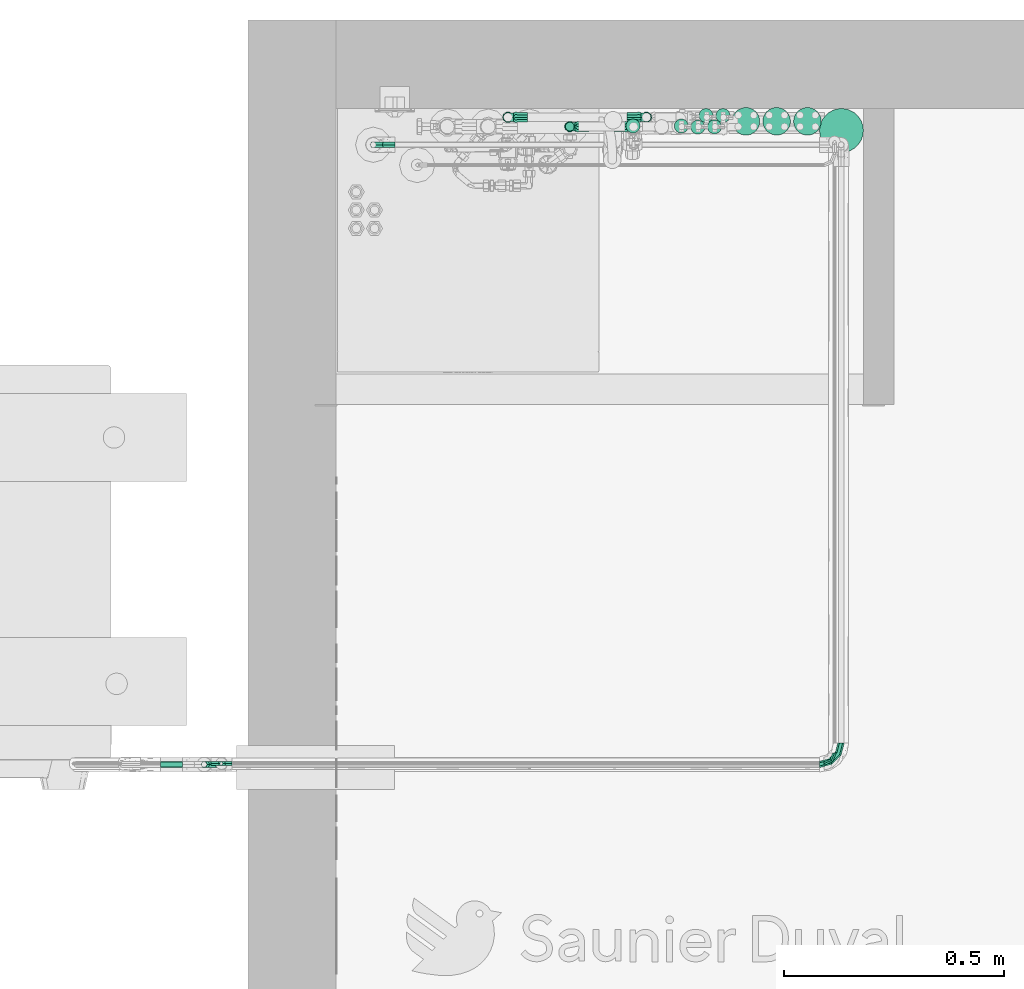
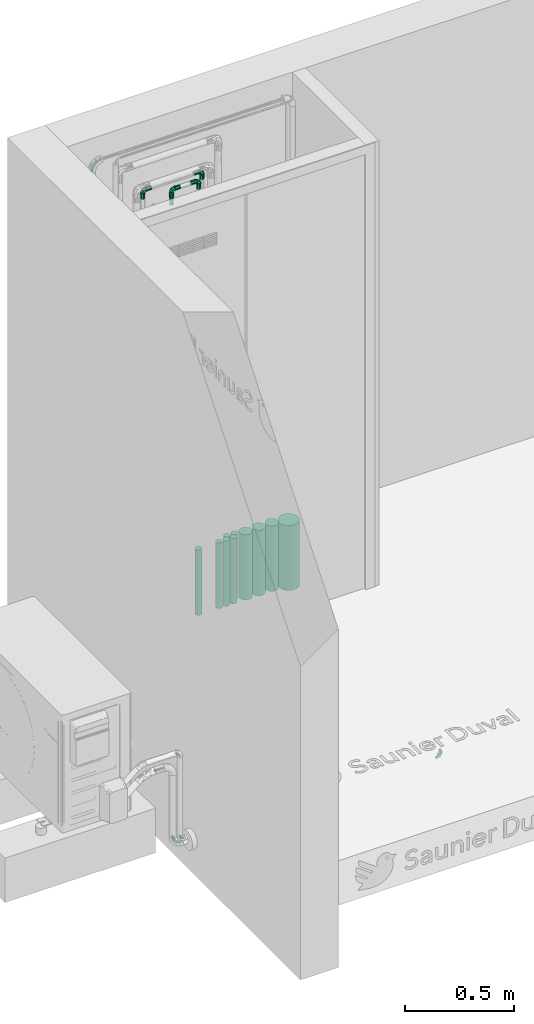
# One storey, part 22 of 32: 12 flow segments, 10 flow fittings.
"""IFC2X3 building model written with IfcOpenShell, lengths in metres."""

import ifcopenshell
import ifcopenshell.guid

model = None  # the IFC model being written
_history = None  # IfcOwnerHistory: only IFC2X3 demands one
_inside = {}  # id of a spatial element -> (the spatial element, [elements in it])
_under = {}  # id of a project, library or spatial element -> (it, [spatial elements below it])
_declared = {}  # id of a project -> (the project, [libraries it declares])
_typed = {}  # id of a type object -> (the type object, [elements of that type])
_made_of = {}  # id of a material, layer set ... -> (it, [elements and type objects made of it])


def new_model(schema):
    """Start an empty IFC model of exactly this schema.

    Asked for "IFC4X3", IfcOpenShell would pick the latest addendum, in which some entities
    have other attributes; the version numbers below select the first issue.
    IFC2X3 requires an IfcOwnerHistory on every rooted entity: one is made here for all.
    """
    global model, _history
    if schema == "IFC4X3":
        model = ifcopenshell.file(schema_version=(4, 3, 0, 0))
    else:
        model = ifcopenshell.file(schema=schema)
    _inside.clear()
    _under.clear()
    _declared.clear()
    _typed.clear()
    _made_of.clear()
    _history = None
    if model.schema == "IFC2X3":
        org = make("IfcOrganization", Name="unknown")
        user = make(
            "IfcPersonAndOrganization",
            ThePerson=make("IfcPerson", FamilyName="unknown"),
            TheOrganization=org,
        )
        app = make(
            "IfcApplication",
            ApplicationDeveloper=org,
            Version="unknown",
            ApplicationFullName="unknown",
            ApplicationIdentifier="unknown",
        )
        _history = make(
            "IfcOwnerHistory",
            OwningUser=user,
            OwningApplication=app,
            ChangeAction="ADDED",
            CreationDate=0,
        )
    return model


def make(cls, **values):
    """One entity of the class cls with the attributes given. An attribute that is None is left unset."""
    return model.create_entity(
        cls, **{name: value for name, value in values.items() if value is not None}
    )


def entity(cls, *values):
    """Any entity or typed value of the class cls, its attributes in the order of the schema. None: left unset."""
    e = model.create_entity(cls)
    for i, value in enumerate(values):
        if value is not None:
            e[i] = value
    return e


def rooted(cls, **values):
    """An entity with a GlobalId (a new one), such as an element, a storey or a relation."""
    return make(cls, GlobalId=ifcopenshell.guid.new(), OwnerHistory=_history, **values)


def si_unit(unit_type, name, prefix=None):
    """IfcSIUnit, for example si_unit("LENGTHUNIT", "METRE", prefix="MILLI")."""
    return make("IfcSIUnit", UnitType=unit_type, Prefix=prefix, Name=name)


def converted_unit(unit_type, name, factor, base, dimensions=None, offset=None):
    """IfcConversionBasedUnit, such as the inch: factor (a typed value) times the base unit."""
    return make(
        "IfcConversionBasedUnit"
        if offset is None
        else "IfcConversionBasedUnitWithOffset",
        ConversionOffset=offset,
        Dimensions=None
        if dimensions is None
        else entity("IfcDimensionalExponents", *dimensions),
        UnitType=unit_type,
        Name=name,
        ConversionFactor=make(
            "IfcMeasureWithUnit", ValueComponent=factor, UnitComponent=base
        ),
    )


def derived_unit(unit_type, elements):
    """IfcDerivedUnit: a product of units, each with its exponent."""
    return make(
        "IfcDerivedUnit",
        Elements=[
            make("IfcDerivedUnitElement", Unit=unit, Exponent=power)
            for unit, power in elements
        ],
        UnitType=unit_type,
    )


def assignment(units):
    """IfcUnitAssignment: the units of a project."""
    return None if units is None else make("IfcUnitAssignment", Units=units)


def point(xyz):
    """IfcCartesianPoint."""
    return None if xyz is None else make("IfcCartesianPoint", Coordinates=xyz)


def direction(xyz):
    """IfcDirection."""
    return None if xyz is None else make("IfcDirection", DirectionRatios=xyz)


def frame(location, z_axis=None, x_axis=None):
    """IfcAxis2Placement3D, a coordinate frame: its origin and axes. An axis left out is left unset."""
    return make(
        "IfcAxis2Placement3D",
        Location=point(location),
        Axis=direction(z_axis),
        RefDirection=direction(x_axis),
    )


def frame_2d(location, x_axis=None):
    """IfcAxis2Placement2D, a coordinate frame in the plane: its origin and x axis."""
    return make(
        "IfcAxis2Placement2D", Location=point(location), RefDirection=direction(x_axis)
    )


def origin():
    """The frame at (0, 0, 0) with its axes left unset."""
    return frame((0.0, 0.0, 0.0))


def origin_2d_with_axis():
    """The frame at (0, 0) in the plane with the x axis (1, 0) written out."""
    return frame_2d((0.0, 0.0), x_axis=(1.0, 0.0))


def place(relative_to, where):
    """IfcLocalPlacement: puts the frame where relative to a parent placement (None: the world)."""
    return make(
        "IfcLocalPlacement", PlacementRelTo=relative_to, RelativePlacement=where
    )


def context(
    kind, dimensions, precision=None, world=None, true_north=None, identifier=None
):
    """IfcGeometricRepresentationContext, for example the 3D "Model" context."""
    return make(
        "IfcGeometricRepresentationContext",
        ContextIdentifier=identifier,
        ContextType=kind,
        CoordinateSpaceDimension=dimensions,
        Precision=precision,
        WorldCoordinateSystem=world,
        TrueNorth=true_north,
    )


def subcontext(parent, identifier, kind, view, scale=None):
    """IfcGeometricRepresentationSubContext, for example "Body" below "Model"."""
    return make(
        "IfcGeometricRepresentationSubContext",
        ContextIdentifier=identifier,
        ContextType=kind,
        ParentContext=parent,
        TargetScale=scale,
        TargetView=view,
    )


def project(units=None, contexts=None):
    """IfcProject with its units and contexts."""
    return rooted(
        "IfcProject",
        Name="project",
        RepresentationContexts=contexts,
        UnitsInContext=assignment(units),
    )


def spatial(cls, under=None, at=None, **own):
    """A site, building, storey or space (cls), placed at a placement, below another one or the project."""
    s = rooted(cls, ObjectPlacement=at, **own)
    if under is not None:
        _under.setdefault(under.id(), (under, []))[1].append(s)
    return s


def profile(cls, at=None, kind="AREA", **sizes):
    """A parametric profile (cls). Its sizes go by their IFC names, for example OverallWidth=200.0."""
    return make(cls, ProfileType=kind, Position=at, **sizes)


def circle(**sizes):
    """IfcCircleProfileDef."""
    return profile("IfcCircleProfileDef", **sizes)


def extrude(swept, where, along, depth):
    """IfcExtrudedAreaSolid: the profile swept, set in the frame where, extruded along a direction by depth."""
    return make(
        "IfcExtrudedAreaSolid",
        SweptArea=swept,
        Position=where,
        ExtrudedDirection=direction(along),
        Depth=depth,
    )


def faces_of(points, faces, orient=None, outer=None):
    """IfcFace entities. A face is a list of loops; a loop is a list of indices into points, from 0.

    orient and outer hold one flag for each loop. By default every Orientation is true, the
    first loop of a face is its IfcFaceOuterBound and the others are IfcFaceBound.
    """
    made = []
    for i, loops in enumerate(faces):
        bounds = []
        for j, loop in enumerate(loops):
            is_outer = j == 0 if outer is None else outer[i][j]
            bounds.append(
                make(
                    "IfcFaceOuterBound" if is_outer else "IfcFaceBound",
                    Bound=make("IfcPolyLoop", Polygon=[points[k] for k in loop]),
                    Orientation=True if orient is None else orient[i][j],
                )
            )
        made.append(make("IfcFace", Bounds=bounds))
    return made


def faceted_brep(points, faces, orient=None, outer=None, voids=None):
    """IfcFacetedBrep: a solid bounded by flat faces; with voids (closed shells), ...WithVoids."""
    shared = [point(p) for p in points]
    hull = make("IfcClosedShell", CfsFaces=faces_of(shared, faces, orient, outer))
    if voids is None:
        return make("IfcFacetedBrep", Outer=hull)
    return make(
        "IfcFacetedBrepWithVoids",
        Outer=hull,
        Voids=[
            make(cls, CfsFaces=faces_of(shared, fs, o, b)) for cls, fs, o, b in voids
        ],
    )


def shape(context_of_items, identifier, shape_type, items):
    """IfcShapeRepresentation: the items that make up one representation, for example the "Body"."""
    return make(
        "IfcShapeRepresentation",
        ContextOfItems=context_of_items,
        RepresentationIdentifier=identifier,
        RepresentationType=shape_type,
        Items=items,
    )


def source(mapping_origin, context_of_items, identifier, shape_type, items):
    """IfcRepresentationMap: a shape defined once, which mapped items show again and again."""
    return make(
        "IfcRepresentationMap",
        MappingOrigin=mapping_origin,
        MappedRepresentation=shape(context_of_items, identifier, shape_type, items),
    )


def transform(
    local_origin,
    x_axis=None,
    y_axis=None,
    z_axis=None,
    scale=None,
    scale2=None,
    scale3=None,
    uniform=True,
):
    """IfcCartesianTransformationOperator3D, or its non-uniform kind. x_axis, y_axis, z_axis: its Axis1, 2, 3."""
    if uniform:
        return make(
            "IfcCartesianTransformationOperator3D",
            Axis1=direction(x_axis),
            Axis2=direction(y_axis),
            LocalOrigin=point(local_origin),
            Scale=scale,
            Axis3=direction(z_axis),
        )
    return make(
        "IfcCartesianTransformationOperator3DnonUniform",
        Axis1=direction(x_axis),
        Axis2=direction(y_axis),
        LocalOrigin=point(local_origin),
        Scale=scale,
        Axis3=direction(z_axis),
        Scale2=scale2,
        Scale3=scale3,
    )


def mapped(mapping_source, mapping_target):
    """IfcMappedItem: shows the shape of a source again, moved by a transform."""
    return make(
        "IfcMappedItem", MappingSource=mapping_source, MappingTarget=mapping_target
    )


def material(Name=None, Category=None):
    """IfcMaterial."""
    return make("IfcMaterial", Name=Name, Category=Category)


def material_list(materials):
    """IfcMaterialList."""
    return make("IfcMaterialList", Materials=materials)


def made_of(thing, what):
    """Note that an element or type object is made of a material, layer set ...; save() writes the relation."""
    if what is not None:
        _made_of.setdefault(what.id(), (what, []))[1].append(thing)
    return thing


def type_object(cls, material=None, **own):
    """A type object (cls), such as IfcWallType, which elements share."""
    return made_of(rooted(cls, **own), material)


def type_shapes(of_type, sources):
    """Give a type object the sources (RepresentationMaps) that its elements show as mapped items."""
    of_type.RepresentationMaps = sources


def element(
    cls,
    number,
    at=None,
    inside=None,
    cuts=None,
    type_object=None,
    material=None,
    context=None,
    identifier="Body",
    shape_type=None,
    held_by="IfcProductDefinitionShape",
    body=None,
    shapes=None,
    **own,
):
    """One element of the class cls, such as IfcWall. Its Tag is "e" and its number.

    at: its placement. inside: the storey or other place that contains it. cuts: it is an
    opening in that element (IfcRelVoidsElement). A single representation is given by context,
    identifier, shape_type and body (its items); several are given by shapes. held_by: the class
    of the entity that holds the representations. save() writes the other relations.
    """
    e = rooted(cls, Tag="e%d" % number, ObjectPlacement=at, **own)
    if body is not None:
        shapes = [shape(context, identifier, shape_type, body)]
    if shapes is not None:
        e.Representation = make(held_by, Representations=shapes)
    if inside is not None:
        _inside.setdefault(inside.id(), (inside, []))[1].append(e)
    if cuts is not None:
        rooted(
            "IfcRelVoidsElement", RelatingBuildingElement=cuts, RelatedOpeningElement=e
        )
    if type_object is not None:
        _typed.setdefault(type_object.id(), (type_object, []))[1].append(e)
    return made_of(e, material)


def aggregate(whole, parts):
    """IfcRelAggregates: a whole, such as a stair, and the parts it consists of."""
    return rooted("IfcRelAggregates", RelatingObject=whole, RelatedObjects=parts)


def save(model, path):
    """Write the relations noted so far, then the file.

    IfcRelAggregates (storeys below a building ...), IfcRelContainedInSpatialStructure (elements
    in a storey), IfcRelDefinesByType, IfcRelAssociatesMaterial and IfcRelDeclares: one each for
    every whole, place, type object, material and project.
    """
    for whole, parts in _under.values():
        aggregate(whole, parts)
    for where, things in _inside.values():
        rooted(
            "IfcRelContainedInSpatialStructure",
            RelatedElements=things,
            RelatingStructure=where,
        )
    for kind, things in _typed.values():
        rooted("IfcRelDefinesByType", RelatedObjects=things, RelatingType=kind)
    for what, things in _made_of.values():
        rooted("IfcRelAssociatesMaterial", RelatedObjects=things, RelatingMaterial=what)
    for by, libraries in _declared.values():
        rooted("IfcRelDeclares", RelatingContext=by, RelatedDefinitions=libraries)
    model.write(path)


model = new_model("IFC2X3")

# Units and contexts
model_context = context("Model", 3, precision=1e-05, world=origin(), true_north=direction((6.123031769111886e-17, 1.0)))
body_context = subcontext(model_context, "Body", "Model", "MODEL_VIEW")
ifc_project = project(units=[si_unit("LENGTHUNIT", "METRE"), si_unit("AREAUNIT", "SQUARE_METRE"), si_unit("VOLUMEUNIT", "CUBIC_METRE"), converted_unit("PLANEANGLEUNIT", "DEGREE", entity("IfcPlaneAngleMeasure", 0.017453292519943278), si_unit("PLANEANGLEUNIT", "RADIAN"), dimensions=[0, 0, 0, 0, 0, 0, 0]), si_unit("MASSUNIT", "GRAM", prefix="KILO"), derived_unit("MASSDENSITYUNIT", [(si_unit("MASSUNIT", "GRAM", prefix="KILO"), 1), (si_unit("LENGTHUNIT", "METRE"), -3)]), derived_unit("IONCONCENTRATIONUNIT", [(si_unit("MASSUNIT", "GRAM", prefix="KILO"), 1), (si_unit("LENGTHUNIT", "METRE"), -3)]), derived_unit("MOMENTOFINERTIAUNIT", [(si_unit("LENGTHUNIT", "METRE"), 4)]), si_unit("TIMEUNIT", "SECOND"), si_unit("FREQUENCYUNIT", "HERTZ"), si_unit("THERMODYNAMICTEMPERATUREUNIT", "DEGREE_CELSIUS"), derived_unit("THERMALTRANSMITTANCEUNIT", [(si_unit("MASSUNIT", "GRAM", prefix="KILO"), 1), (si_unit("THERMODYNAMICTEMPERATUREUNIT", "KELVIN"), -1), (si_unit("TIMEUNIT", "SECOND"), -3)]), derived_unit("THERMALCONDUCTANCEUNIT", [(si_unit("MASSUNIT", "GRAM", prefix="KILO"), 1), (si_unit("THERMODYNAMICTEMPERATUREUNIT", "KELVIN"), -1), (si_unit("TIMEUNIT", "SECOND"), -3), (si_unit("LENGTHUNIT", "METRE"), 1)]), derived_unit("VOLUMETRICFLOWRATEUNIT", [(si_unit("LENGTHUNIT", "METRE", prefix="DECI"), 3), (si_unit("TIMEUNIT", "SECOND"), -1)]), derived_unit("MASSFLOWRATEUNIT", [(si_unit("MASSUNIT", "GRAM", prefix="KILO"), 1), (si_unit("TIMEUNIT", "SECOND"), -1)]), derived_unit("ROTATIONALFREQUENCYUNIT", [(si_unit("TIMEUNIT", "SECOND"), -1)]), si_unit("ELECTRICCURRENTUNIT", "AMPERE"), si_unit("ELECTRICVOLTAGEUNIT", "VOLT"), si_unit("POWERUNIT", "WATT"), si_unit("FORCEUNIT", "NEWTON", prefix="KILO"), si_unit("ILLUMINANCEUNIT", "LUX"), si_unit("LUMINOUSFLUXUNIT", "LUMEN"), si_unit("LUMINOUSINTENSITYUNIT", "CANDELA"), si_unit("ENERGYUNIT", "JOULE"), derived_unit("USERDEFINED", [(si_unit("MASSUNIT", "GRAM", prefix="KILO"), -1), (si_unit("LENGTHUNIT", "METRE"), -2), (si_unit("TIMEUNIT", "SECOND"), 3), (si_unit("LUMINOUSFLUXUNIT", "LUMEN"), 1)]), derived_unit("USERDEFINED", [(si_unit("MASSUNIT", "GRAM", prefix="KILO"), 1), (si_unit("TIMEUNIT", "SECOND"), -3), (si_unit("LENGTHUNIT", "METRE"), 3), (si_unit("ELECTRICCURRENTUNIT", "AMPERE"), -2)]), derived_unit("SOUNDPOWERUNIT", [(si_unit("MASSUNIT", "GRAM", prefix="KILO"), 1), (si_unit("TIMEUNIT", "SECOND"), -3), (si_unit("LENGTHUNIT", "METRE"), 2)]), derived_unit("SOUNDPRESSUREUNIT", [(si_unit("MASSUNIT", "GRAM", prefix="KILO"), 1), (si_unit("LENGTHUNIT", "METRE"), -1), (si_unit("TIMEUNIT", "SECOND"), -2)]), derived_unit("LINEARVELOCITYUNIT", [(si_unit("LENGTHUNIT", "METRE"), 1), (si_unit("TIMEUNIT", "SECOND"), -1)]), si_unit("PRESSUREUNIT", "PASCAL"), derived_unit("USERDEFINED", [(si_unit("MASSUNIT", "GRAM", prefix="KILO"), 1), (si_unit("LENGTHUNIT", "METRE"), -2), (si_unit("TIMEUNIT", "SECOND"), -2)]), derived_unit("LINEARFORCEUNIT", [(si_unit("MASSUNIT", "GRAM", prefix="KILO"), 1), (si_unit("TIMEUNIT", "SECOND"), -2)]), derived_unit("PLANARFORCEUNIT", [(si_unit("MASSUNIT", "GRAM", prefix="KILO"), 1), (si_unit("LENGTHUNIT", "METRE"), -1), (si_unit("TIMEUNIT", "SECOND"), -2)]), derived_unit("SPECIFICHEATCAPACITYUNIT", [(si_unit("THERMODYNAMICTEMPERATUREUNIT", "KELVIN"), -1), (si_unit("LENGTHUNIT", "METRE"), 2), (si_unit("TIMEUNIT", "SECOND"), -2)]), derived_unit("HEATFLUXDENSITYUNIT", [(si_unit("MASSUNIT", "GRAM", prefix="KILO"), 1), (si_unit("TIMEUNIT", "SECOND"), -3)]), derived_unit("HEATINGVALUEUNIT", [(si_unit("LENGTHUNIT", "METRE"), 2), (si_unit("TIMEUNIT", "SECOND"), -2)]), derived_unit("VAPORPERMEABILITYUNIT", [(si_unit("LENGTHUNIT", "METRE"), -1), (si_unit("TIMEUNIT", "SECOND"), 1)]), derived_unit("DYNAMICVISCOSITYUNIT", [(si_unit("MASSUNIT", "GRAM", prefix="KILO"), 1), (si_unit("TIMEUNIT", "SECOND"), -1), (si_unit("LENGTHUNIT", "METRE"), -1)]), derived_unit("THERMALEXPANSIONCOEFFICIENTUNIT", [(si_unit("THERMODYNAMICTEMPERATUREUNIT", "KELVIN"), -1)]), derived_unit("MODULUSOFELASTICITYUNIT", [(si_unit("MASSUNIT", "GRAM", prefix="KILO"), 1), (si_unit("LENGTHUNIT", "METRE"), -1), (si_unit("TIMEUNIT", "SECOND"), -2)]), derived_unit("ISOTHERMALMOISTURECAPACITYUNIT", [(si_unit("MASSUNIT", "GRAM", prefix="KILO"), -1), (si_unit("LENGTHUNIT", "METRE"), 3)]), derived_unit("MOISTUREDIFFUSIVITYUNIT", [(si_unit("TIMEUNIT", "SECOND"), -1), (si_unit("LENGTHUNIT", "METRE"), 2)]), derived_unit("MASSPERLENGTHUNIT", [(si_unit("MASSUNIT", "GRAM", prefix="KILO"), 1), (si_unit("LENGTHUNIT", "METRE"), -1)]), derived_unit("THERMALRESISTANCEUNIT", [(si_unit("MASSUNIT", "GRAM", prefix="KILO"), -1), (si_unit("TIMEUNIT", "SECOND"), 3), (si_unit("THERMODYNAMICTEMPERATUREUNIT", "KELVIN"), 1)]), derived_unit("ACCELERATIONUNIT", [(si_unit("LENGTHUNIT", "METRE"), 1), (si_unit("TIMEUNIT", "SECOND"), -2)]), derived_unit("ANGULARVELOCITYUNIT", [(si_unit("TIMEUNIT", "SECOND"), -1), (si_unit("PLANEANGLEUNIT", "RADIAN"), 1)]), derived_unit("LINEARSTIFFNESSUNIT", [(si_unit("MASSUNIT", "GRAM", prefix="KILO"), 1), (si_unit("TIMEUNIT", "SECOND"), -2)]), derived_unit("WARPINGCONSTANTUNIT", [(si_unit("LENGTHUNIT", "METRE"), 6)]), derived_unit("LINEARMOMENTUNIT", [(si_unit("MASSUNIT", "GRAM", prefix="KILO"), 1), (si_unit("LENGTHUNIT", "METRE"), 1), (si_unit("TIMEUNIT", "SECOND"), -2)]), derived_unit("TORQUEUNIT", [(si_unit("MASSUNIT", "GRAM", prefix="KILO"), 1), (si_unit("LENGTHUNIT", "METRE"), 2), (si_unit("TIMEUNIT", "SECOND"), -2)])], contexts=[model_context])

# Site, building, storey
site_placement = place(None, origin())
site = spatial("IfcSite", under=ifc_project, at=site_placement, Name="Default", CompositionType="ELEMENT")
building_placement = place(site_placement, origin())
building = spatial("IfcBuilding", under=site, at=building_placement, CompositionType="ELEMENT")
storey_placement = place(building_placement, origin())
storey = spatial("IfcBuildingStorey", under=building, at=storey_placement, Name="Niveau 0", CompositionType="ELEMENT", Elevation=-1.949160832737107e-14)

# Flow segments
pipe_segment_type_1 = type_object("IfcPipeSegmentType", Name="Canalisation:PVC - NF", PredefinedType="NOTDEFINED")
flow_segment_1_placement = place(storey_placement, origin())
element("IfcFlowSegment", 1, at=flow_segment_1_placement, inside=storey, type_object=pipe_segment_type_1, Name="Canalisation:PVC - NF", ObjectType="Canalisation:PVC - NF", context=body_context, shape_type="SweptSolid", body=[
    extrude(circle(Radius=0.05, at=origin_2d_with_axis()), frame((-13.55955318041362, 2.817950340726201, -0.33334698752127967)), (0.0, 0.0, 1.0), 0.365),
])
flow_segment_2_placement = place(storey_placement, origin())
element("IfcFlowSegment", 2, at=flow_segment_2_placement, inside=storey, type_object=pipe_segment_type_1, Name="Canalisation:PVC - NF", ObjectType="Canalisation:PVC - NF", context=body_context, shape_type="SweptSolid", body=[
    extrude(circle(Radius=0.016, at=origin_2d_with_axis()), frame((-14.034023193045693, 2.8281879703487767, -0.3365000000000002)), (0.0, 0.0, 1.0), 0.3681530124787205),
])
flow_segment_3_placement = place(storey_placement, origin())
element("IfcFlowSegment", 3, at=flow_segment_3_placement, inside=storey, type_object=pipe_segment_type_1, Name="Canalisation:PVC - NF", ObjectType="Canalisation:PVC - NF", context=body_context, shape_type="SweptSolid", body=[
    extrude(circle(Radius=0.016, at=origin_2d_with_axis()), frame((-13.924023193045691, 2.8281879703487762, -0.3365000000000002)), (0.0, 0.0, 1.0), 0.3681530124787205),
])
flow_segment_4_placement = place(storey_placement, origin())
element("IfcFlowSegment", 4, at=flow_segment_4_placement, inside=storey, type_object=pipe_segment_type_1, Name="Canalisation:PVC - NF", ObjectType="Canalisation:PVC - NF", context=body_context, shape_type="SweptSolid", body=[
    extrude(circle(Radius=0.016, at=frame_2d((0.0, 5.414335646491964e-16), x_axis=(1.0, 0.0))), frame((-13.886523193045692, 2.8256879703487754, -0.3365000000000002)), (0.0, 0.0, 1.0), 0.3681530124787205),
])
flow_segment_5_placement = place(storey_placement, origin())
element("IfcFlowSegment", 5, at=flow_segment_5_placement, inside=storey, type_object=pipe_segment_type_1, Name="Canalisation:PVC - NF", ObjectType="Canalisation:PVC - NF", context=body_context, shape_type="SweptSolid", body=[
    extrude(circle(Radius=0.016, at=origin_2d_with_axis()), frame((-13.867809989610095, 2.8519011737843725, -0.3365000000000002)), (0.0, 0.0, 1.0), 0.3681530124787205),
])
flow_segment_6_placement = place(storey_placement, origin())
element("IfcFlowSegment", 6, at=flow_segment_6_placement, inside=storey, type_object=pipe_segment_type_1, Name="Canalisation:PVC - NF", ObjectType="Canalisation:PVC - NF", context=body_context, shape_type="SweptSolid", body=[
    extrude(circle(Radius=0.016, at=frame_2d((0.0, 5.414335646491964e-16), x_axis=(1.0, 0.0))), frame((-13.848526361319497, 2.8264198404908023, -0.3365000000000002)), (0.0, 0.0, 1.0), 0.3681530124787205),
])
flow_segment_7_placement = place(storey_placement, origin())
element("IfcFlowSegment", 7, at=flow_segment_7_placement, inside=storey, type_object=pipe_segment_type_1, Name="Canalisation:PVC - NF", ObjectType="Canalisation:PVC - NF", context=body_context, shape_type="SweptSolid", body=[
    extrude(circle(Radius=0.016, at=origin_2d_with_axis()), frame((-13.8292427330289, 2.8519011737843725, -0.3365000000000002)), (0.0, 0.0, 1.0), 0.3681530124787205),
])
flow_segment_8_placement = place(storey_placement, origin())
element("IfcFlowSegment", 8, at=flow_segment_8_placement, inside=storey, type_object=pipe_segment_type_1, Name="Canalisation:PVC - NF", ObjectType="Canalisation:PVC - NF", context=body_context, shape_type="SweptSolid", body=[
    extrude(circle(Radius=0.0315, at=frame_2d((0.0, -5.414335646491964e-16), x_axis=(1.0, 0.0))), frame((-13.777053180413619, 2.838944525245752, -0.3365000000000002)), (0.0, 0.0, 1.0), 0.3681530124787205),
])
flow_segment_9_placement = place(storey_placement, origin())
element("IfcFlowSegment", 9, at=flow_segment_9_placement, inside=storey, type_object=pipe_segment_type_1, Name="Canalisation:PVC - NF", ObjectType="Canalisation:PVC - NF", context=body_context, shape_type="SweptSolid", body=[
    extrude(circle(Radius=0.0315, at=frame_2d((0.0, -5.414335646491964e-16), x_axis=(1.0, 0.0))), frame((-13.70705318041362, 2.838944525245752, -0.3365000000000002)), (0.0, 0.0, 1.0), 0.3681530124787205),
])
flow_segment_10_placement = place(storey_placement, origin())
element("IfcFlowSegment", 10, at=flow_segment_10_placement, inside=storey, type_object=pipe_segment_type_1, Name="Canalisation:PVC - NF", ObjectType="Canalisation:PVC - NF", context=body_context, shape_type="SweptSolid", body=[
    extrude(circle(Radius=0.0315, at=origin_2d_with_axis()), frame((-13.637053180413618, 2.8389445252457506, -0.3365000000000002)), (0.0, 0.0, 1.0), 0.3681530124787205),
])
pipe_segment_type_2 = type_object("IfcPipeSegmentType", Name="Canalisation:Cuivre Frigo", PredefinedType="NOTDEFINED")
flow_segment_11_placement = place(storey_placement, origin())
element("IfcFlowSegment", 11, at=flow_segment_11_placement, inside=storey, type_object=pipe_segment_type_2, Name="Canalisation:Cuivre Frigo", ObjectType="Canalisation:Cuivre Frigo", context=body_context, shape_type="SweptSolid", body=[
    extrude(circle(Radius=0.00635, at=frame_2d((0.0, -3.6373305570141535e-18), x_axis=(1.0, 0.0))), frame((-15.109323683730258, 1.3750530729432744, 0.03567251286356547), z_axis=(0.9999999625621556, 0.0, 0.0002736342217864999), x_axis=(0.0, 1.0, 0.0)), (0.0, 0.0, 1.0), 0.04967560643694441),
])
pipe_segment_type_3 = type_object("IfcPipeSegmentType", Name="Canalisation:COMAP MULTISKIN - SKINPRESS PPSU", PredefinedType="NOTDEFINED")
flow_segment_12_placement = place(storey_placement, origin())
element("IfcFlowSegment", 12, at=flow_segment_12_placement, inside=storey, type_object=pipe_segment_type_3, Name="Canalisation:COMAP MULTISKIN - SKINPRESS PPSU", ObjectType="Canalisation:COMAP MULTISKIN - SKINPRESS PPSU", context=body_context, shape_type="SweptSolid", body=[
    extrude(circle(Radius=0.01, at=origin_2d_with_axis()), frame((-14.177760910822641, 2.8269022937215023, 2.016508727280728), z_axis=(0.0, 0.0, 1.0), x_axis=(-1.0, 0.0, 0.0)), (0.0, 0.0, 1.0), 0.06349127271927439),
])

# Flow fittings
ifc_material_1 = material(Name="PPSU")
ifc_material_2 = material(Name="Bague blanche VisuControl")
ifc_material_3 = material(Name="Inox")
ifc_material_list_1 = material_list([ifc_material_1, ifc_material_2, ifc_material_3])
pipe_fitting_type_1 = type_object("IfcPipeFittingType", Name="COMAP - SKINPRESS ppsu - Coude_45_90_9041W_9090W:Coude_45_90_9041W_9090W", PredefinedType="NOTDEFINED", material=ifc_material_list_1)
shared_shape_1 = source(origin(), body_context, "Body", "Brep", [
    faceted_brep([(0.010825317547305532, 0.01600000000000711, -0.006250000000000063), (0.012500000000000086, 0.016000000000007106, 0.0), (0.010825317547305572, 0.01600000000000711, 0.006249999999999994), (0.003235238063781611, 0.016000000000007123, 0.012074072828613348), (-0.0032352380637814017, 0.016000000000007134, 0.012074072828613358), (-0.010825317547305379, 0.016000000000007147, 0.006250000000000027), (-0.012499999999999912, 0.01600000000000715, 0.0), (-0.010825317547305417, 0.016000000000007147, -0.006249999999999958), (-0.003235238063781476, 0.016000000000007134, -0.01207407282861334), (0.003235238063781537, 0.016000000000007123, -0.012074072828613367), (-0.010825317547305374, 0.020000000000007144, 0.006250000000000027), (-0.003235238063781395, 0.020000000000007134, 0.012074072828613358), (0.0032352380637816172, 0.020000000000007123, 0.012074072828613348), (0.010825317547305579, 0.020000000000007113, 0.006249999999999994), (0.012500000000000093, 0.020000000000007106, 0.0), (0.010825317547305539, 0.020000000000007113, -0.006250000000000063), (0.0032352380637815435, 0.020000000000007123, -0.012074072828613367), (-0.0032352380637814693, 0.020000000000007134, -0.01207407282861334), (-0.01082531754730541, 0.020000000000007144, -0.006249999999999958), (-0.012499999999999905, 0.02000000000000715, 0.0)], [[[0, 1, 2, 3, 4, 5, 6, 7, 8, 9]], [[10, 11, 12, 13, 14, 15, 16, 17, 18, 19]], [[7, 6, 19, 18]], [[8, 7, 18, 17]], [[17, 16, 9, 8]], [[0, 9, 16, 15]], [[1, 0, 15, 14]], [[2, 1, 14, 13]], [[3, 2, 13, 12]], [[12, 11, 4, 3]], [[5, 4, 11, 10]], [[6, 5, 10, 19]]]),
    faceted_brep([(0.009526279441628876, 0.015000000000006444, -0.005500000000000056), (0.011000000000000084, 0.015000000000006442, 0.0), (0.009526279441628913, 0.015000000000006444, 0.0054999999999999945), (0.002847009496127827, 0.015000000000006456, 0.010625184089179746), (-0.002847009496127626, 0.015000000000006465, 0.010625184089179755), (-0.009526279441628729, 0.015000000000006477, 0.005500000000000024), (-0.010999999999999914, 0.01500000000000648, 0.0), (-0.009526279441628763, 0.015000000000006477, -0.005499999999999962), (-0.0028470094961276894, 0.015000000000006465, -0.010625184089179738), (0.0028470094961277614, 0.015000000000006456, -0.010625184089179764), (-0.010999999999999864, 0.04400000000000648, 0.0), (-0.009526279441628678, 0.04400000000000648, 0.005500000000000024), (-0.0028470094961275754, 0.04400000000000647, 0.010625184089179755), (0.0028470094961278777, 0.04400000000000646, 0.010625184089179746), (0.009526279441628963, 0.044000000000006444, 0.0054999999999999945), (0.011000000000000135, 0.044000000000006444, 0.0), (0.009526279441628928, 0.044000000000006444, -0.005500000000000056), (0.002847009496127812, 0.04400000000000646, -0.010625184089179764), (-0.0028470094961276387, 0.04400000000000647, -0.010625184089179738), (-0.009526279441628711, 0.04400000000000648, -0.005499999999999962)], [[[0, 1, 2, 3, 4, 5, 6, 7, 8, 9]], [[10, 11, 12, 13, 14, 15, 16, 17, 18, 19]], [[7, 6, 10, 19]], [[8, 7, 19, 18]], [[18, 17, 9, 8]], [[0, 9, 17, 16]], [[1, 0, 16, 15]], [[2, 1, 15, 14]], [[3, 2, 14, 13]], [[13, 12, 4, 3]], [[5, 4, 12, 11]], [[6, 5, 11, 10]]]),
    faceted_brep([(-0.015999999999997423, 0.010825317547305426, -0.006250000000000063), (-0.01599999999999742, 0.01249999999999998, 0.0), (-0.015999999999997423, 0.010825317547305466, 0.006249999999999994), (-0.015999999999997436, 0.0032352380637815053, 0.012074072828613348), (-0.015999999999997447, -0.0032352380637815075, 0.012074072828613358), (-0.015999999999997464, -0.010825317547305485, 0.006250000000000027), (-0.015999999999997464, -0.012500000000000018, 0.0), (-0.015999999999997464, -0.010825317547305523, -0.006249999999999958), (-0.015999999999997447, -0.0032352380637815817, -0.01207407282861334), (-0.015999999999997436, 0.003235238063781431, -0.012074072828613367), (-0.019999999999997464, -0.010825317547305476, 0.006250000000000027), (-0.01999999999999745, -0.003235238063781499, 0.012074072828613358), (-0.019999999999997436, 0.0032352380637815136, 0.012074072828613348), (-0.019999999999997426, 0.010825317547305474, 0.006249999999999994), (-0.01999999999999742, 0.012499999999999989, 0.0), (-0.019999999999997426, 0.010825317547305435, -0.006250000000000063), (-0.019999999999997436, 0.00323523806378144, -0.012074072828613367), (-0.01999999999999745, -0.003235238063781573, -0.01207407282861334), (-0.019999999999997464, -0.010825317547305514, -0.006249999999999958), (-0.019999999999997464, -0.01250000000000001, 0.0)], [[[0, 1, 2, 3, 4, 5, 6, 7, 8, 9]], [[10, 11, 12, 13, 14, 15, 16, 17, 18, 19]], [[7, 6, 19, 18]], [[8, 7, 18, 17]], [[17, 16, 9, 8]], [[0, 9, 16, 15]], [[1, 0, 15, 14]], [[2, 1, 14, 13]], [[3, 2, 13, 12]], [[12, 11, 4, 3]], [[5, 4, 11, 10]], [[6, 5, 10, 19]]]),
    faceted_brep([(-0.014999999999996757, 0.009526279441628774, -0.005500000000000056), (-0.014999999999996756, 0.01099999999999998, 0.0), (-0.014999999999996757, 0.009526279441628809, 0.0054999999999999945), (-0.01499999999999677, 0.0028470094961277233, 0.010625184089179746), (-0.01499999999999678, -0.0028470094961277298, 0.010625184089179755), (-0.01499999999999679, -0.009526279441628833, 0.005500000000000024), (-0.014999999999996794, -0.011000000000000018, 0.0), (-0.01499999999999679, -0.009526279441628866, -0.005499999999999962), (-0.01499999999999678, -0.002847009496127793, -0.010625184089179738), (-0.01499999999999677, 0.002847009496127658, -0.010625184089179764), (-0.0439999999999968, -0.010999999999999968, 0.0), (-0.04399999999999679, -0.009526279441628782, 0.005500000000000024), (-0.043999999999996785, -0.002847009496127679, 0.010625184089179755), (-0.04399999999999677, 0.002847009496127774, 0.010625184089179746), (-0.04399999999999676, 0.00952627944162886, 0.0054999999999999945), (-0.04399999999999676, 0.01100000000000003, 0.0), (-0.04399999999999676, 0.009526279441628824, -0.005500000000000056), (-0.04399999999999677, 0.0028470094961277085, -0.010625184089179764), (-0.043999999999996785, -0.0028470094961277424, -0.010625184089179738), (-0.04399999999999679, -0.009526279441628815, -0.005499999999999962)], [[[0, 1, 2, 3, 4, 5, 6, 7, 8, 9]], [[10, 11, 12, 13, 14, 15, 16, 17, 18, 19]], [[7, 6, 10, 19]], [[8, 7, 19, 18]], [[18, 17, 9, 8]], [[0, 9, 17, 16]], [[1, 0, 16, 15]], [[2, 1, 15, 14]], [[3, 2, 14, 13]], [[13, 12, 4, 3]], [[5, 4, 12, 11]], [[6, 5, 11, 10]]]),
    faceted_brep([(-0.01499999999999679, -0.009526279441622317, -0.005500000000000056), (-0.014999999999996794, -0.010999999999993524, 0.0), (-0.01499999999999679, -0.009526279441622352, 0.0054999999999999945), (-0.01499999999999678, -0.0028470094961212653, 0.010625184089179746), (-0.01499999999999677, 0.0028470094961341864, 0.010625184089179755), (-0.014999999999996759, 0.00952627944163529, 0.005500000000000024), (-0.014999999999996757, 0.011000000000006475, 0.0), (-0.014999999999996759, 0.009526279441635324, -0.005499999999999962), (-0.01499999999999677, 0.0028470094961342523, -0.010625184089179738), (-0.01499999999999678, -0.0028470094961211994, -0.010625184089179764), (-0.011999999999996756, 0.011000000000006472, 0.0), (-0.011999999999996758, 0.009526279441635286, 0.005500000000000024), (-0.011999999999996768, 0.0028470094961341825, 0.010625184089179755), (-0.011999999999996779, -0.0028470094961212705, 0.010625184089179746), (-0.01199999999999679, -0.009526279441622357, 0.0054999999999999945), (-0.011999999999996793, -0.010999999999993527, 0.0), (-0.01199999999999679, -0.00952627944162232, -0.005500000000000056), (-0.011999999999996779, -0.002847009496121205, -0.010625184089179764), (-0.011999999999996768, 0.002847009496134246, -0.010625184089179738), (-0.011999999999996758, 0.009526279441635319, -0.005499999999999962)], [[[0, 1, 2, 3, 4, 5, 6, 7, 8, 9]], [[10, 11, 12, 13, 14, 15, 16, 17, 18, 19]], [[7, 6, 10, 19]], [[8, 7, 19, 18]], [[18, 17, 9, 8]], [[0, 9, 17, 16]], [[1, 0, 16, 15]], [[2, 1, 15, 14]], [[3, 2, 14, 13]], [[13, 12, 4, 3]], [[5, 4, 12, 11]], [[6, 5, 11, 10]]]),
    faceted_brep([(-0.0054999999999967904, 0.015000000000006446, 0.009526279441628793), (0.0, 0.015000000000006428, 0.011), (0.00550000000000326, 0.015000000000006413, 0.009526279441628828), (0.010625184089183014, 0.015000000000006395, 0.0028470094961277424), (0.010625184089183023, 0.015000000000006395, -0.0028470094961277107), (0.00550000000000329, 0.015000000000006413, -0.009526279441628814), (0.0, 0.015000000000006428, -0.011), (-0.005499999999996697, 0.015000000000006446, -0.009526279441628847), (-0.010625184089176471, 0.015000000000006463, -0.002847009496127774), (-0.010625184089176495, 0.015000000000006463, 0.002847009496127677), (0.0, 0.012000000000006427, -0.011), (0.00550000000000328, 0.012000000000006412, -0.009526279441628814), (0.010625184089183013, 0.012000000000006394, -0.0028470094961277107), (0.010625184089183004, 0.012000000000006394, 0.0028470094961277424), (0.0055000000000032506, 0.012000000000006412, 0.009526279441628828), (0.0, 0.012000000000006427, 0.011), (-0.0054999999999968, 0.012000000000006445, 0.009526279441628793), (-0.010625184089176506, 0.012000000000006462, 0.002847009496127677), (-0.010625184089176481, 0.012000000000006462, -0.002847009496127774), (-0.005499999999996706, 0.012000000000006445, -0.009526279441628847)], [[[0, 1, 2, 3, 4, 5, 6, 7, 8, 9]], [[10, 11, 12, 13, 14, 15, 16, 17, 18, 19]], [[7, 6, 10, 19]], [[8, 7, 19, 18]], [[18, 17, 9, 8]], [[0, 9, 17, 16]], [[1, 0, 16, 15]], [[2, 1, 15, 14]], [[3, 2, 14, 13]], [[13, 12, 4, 3]], [[5, 4, 12, 11]], [[6, 5, 11, 10]]]),
    faceted_brep([(0.004263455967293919, -0.004263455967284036, 0.0), (0.00037436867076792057, -0.00037436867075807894, -0.009526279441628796), (0.0055000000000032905, 0.012000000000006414, -0.009526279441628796), (0.011000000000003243, 0.012000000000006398, 0.0), (-0.007403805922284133, 0.007403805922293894, -0.009526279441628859), (-0.005499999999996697, 0.012000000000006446, -0.009526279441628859), (-0.011292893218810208, 0.011292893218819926, 0.0), (-0.010999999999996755, 0.012000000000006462, 0.0), (-0.007403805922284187, 0.007403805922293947, 0.009526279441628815), (-0.005499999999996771, 0.012000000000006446, 0.009526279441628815), (0.000374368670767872, -0.00037436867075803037, 0.009526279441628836), (0.005500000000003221, 0.012000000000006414, 0.009526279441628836), (-0.011999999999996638, -0.010999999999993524, 0.0), (-0.011999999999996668, -0.005499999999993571, -0.009526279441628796), (-0.011999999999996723, 0.005500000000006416, -0.009526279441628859), (-0.011999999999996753, 0.011000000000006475, 0.0), (-0.011999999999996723, 0.005500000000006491, 0.009526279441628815), (-0.011999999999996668, -0.005499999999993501, 0.009526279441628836)], [[[0, 1, 2, 3]], [[1, 4, 5, 2]], [[4, 6, 7, 5]], [[6, 8, 9, 7]], [[8, 10, 11, 9]], [[10, 0, 3, 11]], [[12, 13, 1, 0]], [[13, 14, 4, 1]], [[14, 15, 6, 4]], [[15, 16, 8, 6]], [[16, 17, 10, 8]], [[17, 12, 0, 10]], [[3, 2, 5, 7, 9, 11]], [[17, 16, 15, 14, 13, 12]]]),
])
type_shapes(pipe_fitting_type_1, [shared_shape_1])
flow_fitting_1_placement = place(storey_placement, frame((-14.177760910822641, 2.8269022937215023, 2.1), z_axis=(0.0, 1.0, 0.0), x_axis=(0.0, 0.0, 1.0)))
element("IfcFlowFitting", 13, at=flow_fitting_1_placement, inside=storey, type_object=pipe_fitting_type_1, material=ifc_material_list_1, Name="COMAP - SKINPRESS ppsu - Coude_45_90_9041W_9090W:Coude_45_90_9041W_9090W", ObjectType="COMAP - SKINPRESS ppsu - Coude_45_90_9041W_9090W:Coude_45_90_9041W_9090W", context=body_context, shape_type="MappedRepresentation", body=[
    mapped(shared_shape_1, transform((0.0, 0.0, 0.0), scale=1.0)),
])
ifc_material_list_2 = material_list([ifc_material_2, ifc_material_3, ifc_material_1])
for number, where, z_axis, x_axis in (
    (14, (-14.032760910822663, 2.826796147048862, 2.1), (0.0, 1.0, 0.0), (1.0, 0.0, 0.0)),
    (15, (-14.318550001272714, 2.8480800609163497, 2.131410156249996), (0.0, 1.0, 0.0), (0.0, 0.0, 1.0)),
    (16, (-14.003550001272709, 2.8480800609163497, 2.131410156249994), (0.0, 1.0, 0.0), (1.0, 0.0, 0.0)),
):
    element("IfcFlowFitting", number, at=place(storey_placement, frame(where, z_axis=z_axis, x_axis=x_axis)), inside=storey, type_object=pipe_fitting_type_1, material=ifc_material_list_2, Name="COMAP - SKINPRESS ppsu - Coude_45_90_9041W_9090W:Coude_45_90_9041W_9090W", ObjectType="COMAP - SKINPRESS ppsu - Coude_45_90_9041W_9090W:Coude_45_90_9041W_9090W", context=body_context, shape_type="MappedRepresentation", body=[
        mapped(shared_shape_1, transform((0.0, 0.0, 0.0), scale=1.0)),
    ])
ifc_material_4 = material(Name="Cuivre")
pipe_fitting_type_2 = type_object("IfcPipeFittingType", Name="Coude - tube frigo:Standard", PredefinedType="NOTDEFINED", material=ifc_material_4)
shared_shape_2 = source(origin(), body_context, "Body", "Brep", [
    faceted_brep([(-0.00023966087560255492, 0.02097499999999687, 0.0), (-0.003422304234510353, 0.022812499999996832, -0.006365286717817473), (0.003675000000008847, 0.049299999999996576, -0.006365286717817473), (0.0073500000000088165, 0.049299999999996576, 0.0), (-0.009787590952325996, 0.02648749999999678, -0.006365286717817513), (-0.003674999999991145, 0.049299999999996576, -0.006365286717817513), (-0.012970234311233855, 0.028324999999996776, 0.0), (-0.007349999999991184, 0.049299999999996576, 0.0), (-0.00978759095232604, 0.02648749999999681, 0.00636528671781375), (-0.003674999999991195, 0.049299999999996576, 0.00636528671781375), (-0.003422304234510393, 0.022812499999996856, 0.0063652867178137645), (0.0036750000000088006, 0.049299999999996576, 0.0063652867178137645), (-0.020974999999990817, 0.00023966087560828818, 0.0), (-0.022812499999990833, 0.003422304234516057, -0.006365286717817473), (-0.02648749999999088, 0.009787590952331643, -0.006365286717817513), (-0.028324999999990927, 0.012970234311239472, 0.0), (-0.026487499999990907, 0.009787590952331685, 0.00636528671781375), (-0.022812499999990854, 0.003422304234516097, 0.0063652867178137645), (-0.04929999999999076, -0.007350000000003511, 0.0), (-0.049299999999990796, -0.0036750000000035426, -0.006365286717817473), (-0.049299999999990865, 0.0036749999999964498, -0.006365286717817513), (-0.0492999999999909, 0.007349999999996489, 0.0), (-0.049299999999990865, 0.0036749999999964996, 0.00636528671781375), (-0.049299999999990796, -0.0036750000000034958, 0.0063652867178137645)], [[[0, 1, 2, 3]], [[1, 4, 5, 2]], [[4, 6, 7, 5]], [[6, 8, 9, 7]], [[8, 10, 11, 9]], [[10, 0, 3, 11]], [[12, 13, 1, 0]], [[13, 14, 4, 1]], [[14, 15, 6, 4]], [[15, 16, 8, 6]], [[16, 17, 10, 8]], [[17, 12, 0, 10]], [[18, 19, 13, 12]], [[19, 20, 14, 13]], [[20, 21, 15, 14]], [[21, 22, 16, 15]], [[22, 23, 17, 16]], [[23, 18, 12, 17]], [[3, 2, 5, 7, 9, 11]], [[23, 22, 21, 20, 19, 18]]]),
])
type_shapes(pipe_fitting_type_2, [shared_shape_2])
for number, where, z_axis, x_axis, name in (
    (17, (-14.625301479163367, 2.7855264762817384, 2.4344379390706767), (0.0, 1.0, 0.0), (0.0, 0.0, 1.0), "Coude - tube frigo:Standard"),
    (18, (-15.01034808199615, 1.3750530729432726, -0.4149999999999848), (0.0, -1.0, 0.0), (0.0, 0.0, -1.0), "Coude - tube frigo:Standard"),
):
    element("IfcFlowFitting", number, at=place(storey_placement, frame(where, z_axis=z_axis, x_axis=x_axis)), inside=storey, type_object=pipe_fitting_type_2, material=ifc_material_4, Name=name, ObjectType="Coude - tube frigo:Standard", context=body_context, shape_type="MappedRepresentation", body=[
        mapped(shared_shape_2, transform((0.0, 0.0, 0.0), scale=1.0)),
    ])
flow_fitting_2_placement = place(storey_placement, frame((-13.560301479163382, 1.3750530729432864, -0.41499999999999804)))
element("IfcFlowFitting", 19, at=flow_fitting_2_placement, inside=storey, type_object=pipe_fitting_type_2, material=ifc_material_4, Name="Coude - tube frigo:Standard", ObjectType="Coude - tube frigo:Standard", context=body_context, shape_type="MappedRepresentation", body=[
    mapped(shared_shape_2, transform((0.0, 0.0, 0.0), scale=1.0)),
])
pipe_fitting_type_3 = type_object("IfcPipeFittingType", Name="Coude - tube frigo:Standard", PredefinedType="NOTDEFINED", material=ifc_material_4)
shared_shape_3 = source(origin(), body_context, "Body", "Brep", [
    faceted_brep([(-0.004088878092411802, 0.004088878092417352, 0.0), (-0.007058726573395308, 0.007058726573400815, -0.004200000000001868), (0.0, 0.024099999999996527, -0.004200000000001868), (0.0042000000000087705, 0.024099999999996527, 0.0), (-0.010028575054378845, 0.010028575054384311, 0.0), (-0.00419999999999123, 0.024099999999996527, 0.0), (-0.00705872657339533, 0.007058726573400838, 0.004199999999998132), (0.0, 0.024099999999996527, 0.004199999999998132), (-0.024099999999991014, -0.004200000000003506, 0.0), (-0.024099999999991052, 0.0, -0.004200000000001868), (-0.02409999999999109, 0.0041999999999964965, 0.0), (-0.024099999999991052, 0.0, 0.004199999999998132)], [[[0, 1, 2, 3]], [[1, 4, 5, 2]], [[4, 6, 7, 5]], [[6, 0, 3, 7]], [[8, 9, 1, 0]], [[9, 10, 4, 1]], [[10, 11, 6, 4]], [[11, 8, 0, 6]], [[3, 2, 5, 7]], [[11, 10, 9, 8]]]),
])
type_shapes(pipe_fitting_type_3, [shared_shape_3])
flow_fitting_3_placement = place(storey_placement, frame((-14.970920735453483, 1.377053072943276, 0.09334358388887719), z_axis=(0.0, 1.0, 0.0), x_axis=(1.0, 0.0, 0.0)))
element("IfcFlowFitting", 20, at=flow_fitting_3_placement, inside=storey, type_object=pipe_fitting_type_3, material=ifc_material_4, Name="Coude - tube frigo:Standard", ObjectType="Coude - tube frigo:Standard", context=body_context, shape_type="MappedRepresentation", body=[
    mapped(shared_shape_3, transform((0.0, 0.0, 0.0), scale=1.0)),
])
flow_fitting_4_placement = place(storey_placement, frame((-13.575301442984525, 1.3770530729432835, -0.3999999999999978)))
element("IfcFlowFitting", 21, at=flow_fitting_4_placement, inside=storey, type_object=pipe_fitting_type_3, material=ifc_material_4, Name="Coude - tube frigo:Standard", ObjectType="Coude - tube frigo:Standard", context=body_context, shape_type="MappedRepresentation", body=[
    mapped(shared_shape_3, transform((0.0, 0.0, 0.0), scale=1.0)),
])
flow_fitting_5_placement = place(storey_placement, frame((-14.97092073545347, 1.377053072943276, -0.3999999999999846), z_axis=(0.0, -1.0, 0.0), x_axis=(0.0, 0.0, -1.0)))
element("IfcFlowFitting", 22, at=flow_fitting_5_placement, inside=storey, type_object=pipe_fitting_type_3, material=ifc_material_4, Name="Coude - tube frigo:Standard", ObjectType="Coude - tube frigo:Standard", context=body_context, shape_type="MappedRepresentation", body=[
    mapped(shared_shape_3, transform((0.0, 0.0, 0.0), scale=1.0)),
])

save(model, "model.ifc")
